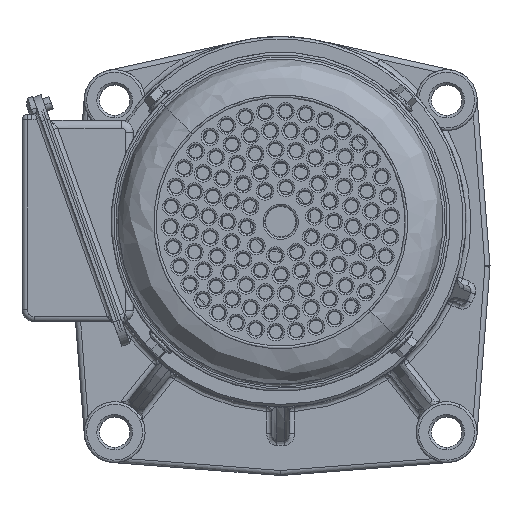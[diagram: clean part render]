
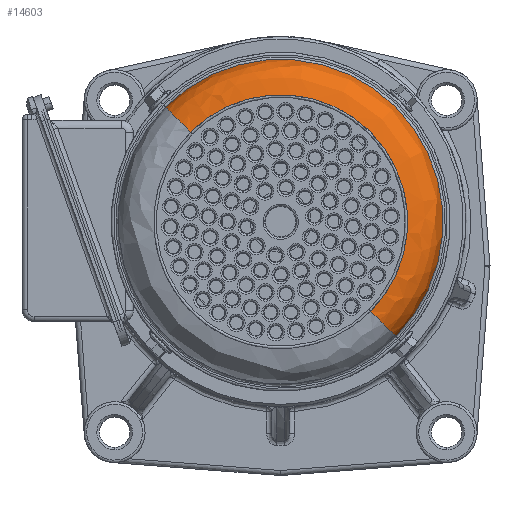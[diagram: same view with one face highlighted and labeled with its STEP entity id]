
A CAD part, front view. The second image highlights one B-rep face of the part: STEP entity #14603.
In plain terms, the highlighted free-form (B-spline) face has degree [3, 3] with [4, 4] control points.
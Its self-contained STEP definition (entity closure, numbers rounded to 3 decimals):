
#8959 = VERTEX_POINT ( 'NONE', #21377 ) ;
#8960 = VERTEX_POINT ( 'NONE', #21374 ) ;
#8962 = EDGE_CURVE ( 'NONE', #8959, #8963, #21801, .T. ) ;
#8963 = VERTEX_POINT ( 'NONE', #21863 ) ;
#8966 = VERTEX_POINT ( 'NONE', #21855 ) ;
#8968 = EDGE_CURVE ( 'NONE', #8960, #8966, #21852, .T. ) ;
#11965 = EDGE_CURVE ( 'NONE', #8963, #8966, #40766, .T. ) ;
#11983 = EDGE_CURVE ( 'NONE', #8960, #8959, #40820, .T. ) ;
#14603 = ADVANCED_FACE ( 'NONE', ( #52117 ), #52096, .T. ) ;
#14604 = EDGE_LOOP ( 'NONE', ( #14605, #14606, #14607, #14608 ) ) ;
#14605 = ORIENTED_EDGE ( 'NONE', *, *, #8962, .F. ) ;
#14606 = ORIENTED_EDGE ( 'NONE', *, *, #11983, .F. ) ;
#14607 = ORIENTED_EDGE ( 'NONE', *, *, #8968, .T. ) ;
#14608 = ORIENTED_EDGE ( 'NONE', *, *, #11965, .F. ) ;
#21374 = CARTESIAN_POINT ( 'NONE',  ( 50., 0., 43. ) ) ;
#21377 = CARTESIAN_POINT ( 'NONE',  ( -50., 0., 43. ) ) ;
#21801 = CIRCLE ( 'NONE', #21805, 14. ) ;
#21805 = AXIS2_PLACEMENT_3D ( 'NONE', #21811, #21810, #21809 ) ;
#21809 = DIRECTION ( 'NONE',  ( -1., 0., 0. ) ) ;
#21810 = DIRECTION ( 'NONE',  ( 0., -1., 0. ) ) ;
#21811 = CARTESIAN_POINT ( 'NONE',  ( -50., 0., 29. ) ) ;
#21845 = DIRECTION ( 'NONE',  ( 1., 0., 0. ) ) ;
#21847 = DIRECTION ( 'NONE',  ( 0., 1., 0. ) ) ;
#21848 = CARTESIAN_POINT ( 'NONE',  ( 50., 0., 29. ) ) ;
#21850 = AXIS2_PLACEMENT_3D ( 'NONE', #21848, #21847, #21845 ) ;
#21852 = CIRCLE ( 'NONE', #21850, 14. ) ;
#21855 = CARTESIAN_POINT ( 'NONE',  ( 64., 0., 29. ) ) ;
#21863 = CARTESIAN_POINT ( 'NONE',  ( -64., 0., 29. ) ) ;
#39977 = DIRECTION ( 'NONE',  ( 1., 0., 0. ) ) ;
#39978 = DIRECTION ( 'NONE',  ( 0., 0., 1. ) ) ;
#40762 = DIRECTION ( 'NONE',  ( 1., 0., 0. ) ) ;
#40763 = DIRECTION ( 'NONE',  ( 0., 0., -1. ) ) ;
#40764 = CARTESIAN_POINT ( 'NONE',  ( 0., 0., 29. ) ) ;
#40765 = AXIS2_PLACEMENT_3D ( 'NONE', #40764, #40763, #40762 ) ;
#40766 = CIRCLE ( 'NONE', #40765, 64. ) ;
#40817 = CARTESIAN_POINT ( 'NONE',  ( 0., 0., 43. ) ) ;
#40818 = AXIS2_PLACEMENT_3D ( 'NONE', #40817, #39978, #39977 ) ;
#40820 = CIRCLE ( 'NONE', #40818, 50. ) ;
#52096 =( BOUNDED_SURFACE ( )  B_SPLINE_SURFACE ( 3, 3, ( 
 ( #52170, #52169, #52167, #52165 ),
 ( #52162, #52161, #52160, #52159 ),
 ( #52158, #52157, #52156, #52155 ),
 ( #52152, #52151, #52150, #52149 ) ),
 .UNSPECIFIED., .F., .F., .T. ) 
 B_SPLINE_SURFACE_WITH_KNOTS ( ( 4, 4 ),
 ( 4, 4 ),
 ( 0., 1. ),
 ( 0., 1. ),
 .UNSPECIFIED. ) 
 GEOMETRIC_REPRESENTATION_ITEM ( )  RATIONAL_B_SPLINE_SURFACE ( (
 ( 1., 0.333, 0.333, 1.),
 ( 0.805, 0.268, 0.268, 0.805),
 ( 0.805, 0.268, 0.268, 0.805),
 ( 1., 0.333, 0.333, 1.) ) ) 
 REPRESENTATION_ITEM ( '' )  SURFACE ( )  );
#52117 = FACE_OUTER_BOUND ( 'NONE', #14604, .T. ) ;
#52149 = CARTESIAN_POINT ( 'NONE',  ( -64., 0., 29. ) ) ;
#52150 = CARTESIAN_POINT ( 'NONE',  ( -64., 128., 29. ) ) ;
#52151 = CARTESIAN_POINT ( 'NONE',  ( 64., 128., 29. ) ) ;
#52152 = CARTESIAN_POINT ( 'NONE',  ( 64., 0., 29. ) ) ;
#52155 = CARTESIAN_POINT ( 'NONE',  ( -64., 0., 37.201 ) ) ;
#52156 = CARTESIAN_POINT ( 'NONE',  ( -64., 128., 37.201 ) ) ;
#52157 = CARTESIAN_POINT ( 'NONE',  ( 64., 128., 37.201 ) ) ;
#52158 = CARTESIAN_POINT ( 'NONE',  ( 64., 0., 37.201 ) ) ;
#52159 = CARTESIAN_POINT ( 'NONE',  ( -58.201, 0., 43. ) ) ;
#52160 = CARTESIAN_POINT ( 'NONE',  ( -58.201, 116.402, 43. ) ) ;
#52161 = CARTESIAN_POINT ( 'NONE',  ( 58.201, 116.402, 43. ) ) ;
#52162 = CARTESIAN_POINT ( 'NONE',  ( 58.201, 0., 43. ) ) ;
#52165 = CARTESIAN_POINT ( 'NONE',  ( -50., 0., 43. ) ) ;
#52167 = CARTESIAN_POINT ( 'NONE',  ( -50., 100., 43. ) ) ;
#52169 = CARTESIAN_POINT ( 'NONE',  ( 50., 100., 43. ) ) ;
#52170 = CARTESIAN_POINT ( 'NONE',  ( 50., 0., 43. ) ) ;
